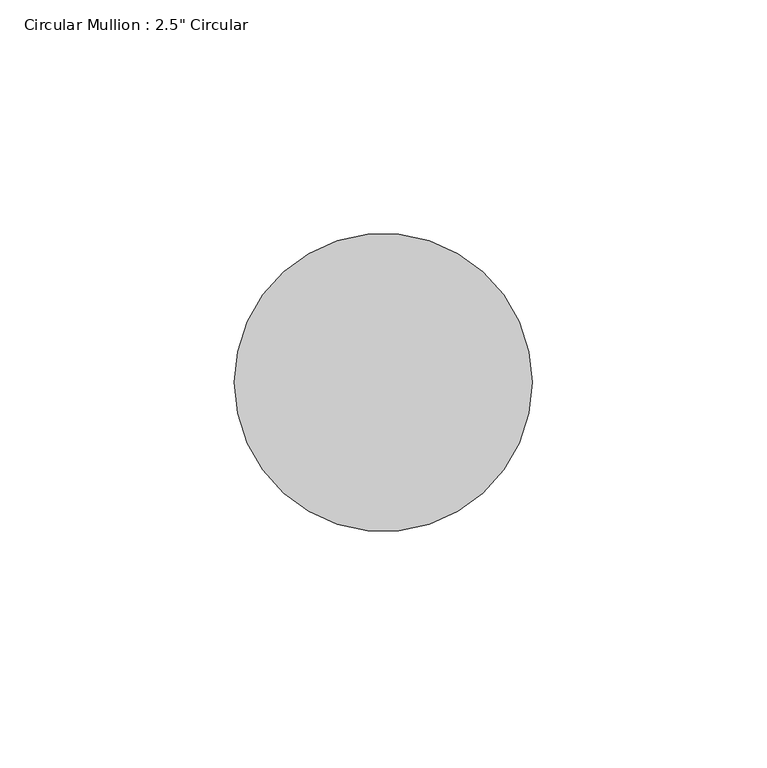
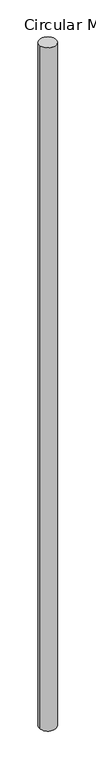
"""IFC4 building model written with IfcOpenShell, lengths in millimetres: member geometry."""

from ifc_helpers import new_model, si_unit, point, frame, origin, origin_2d, place, context, project, spatial, circle_curve, trimmed, segment, composite_curve, outline, extrude, source, transform, mapped, element, save


def member_d45de604(model_context):
    return source(origin(), model_context, "Body", "SweptSolid", [
        extrude(outline(composite_curve([segment(trimmed(circle_curve(origin_2d(), 31.75), [point((31.75, 0.0))], [point((-31.75, 0.0))], False, "CARTESIAN"), True, "CONTINUOUS"), segment(trimmed(circle_curve(origin_2d(), 31.75), [point((-31.75, 0.0))], [point((31.75, 0.0))], False, "CARTESIAN"), True, "CONTINUOUS")], self_intersect=False)), frame((0.0, 0.0, -2755.518113), z_axis=(0.0, 0.0, 1.0), x_axis=(1.0, 0.0, 0.0)), (0.0, 0.0, 1.0), 2755.518113),
    ])


if __name__ == "__main__":
    model = new_model("IFC4")
    model_context = context("Model", 3, world=origin())
    ifc_project = project(units=[si_unit("LENGTHUNIT", "METRE", prefix="MILLI")], contexts=[model_context])
    site = spatial("IfcSite", under=ifc_project)
    building = spatial("IfcBuilding", under=site)
    placement = place(None, origin())
    member_shape = member_d45de604(model_context)
    element("IfcMember", 1, ObjectType="Circular Mullion : 2.5\" Circular", at=placement, inside=building, context=model_context, shape_type="MappedRepresentation", body=[
        mapped(member_shape, transform((0.0, 0.0, 0.0), x_axis=(1.0, 0.0, 0.0), y_axis=(0.0, 1.0, 0.0), z_axis=(0.0, 0.0, 1.0))),
    ])
    save(model, "model.ifc")
